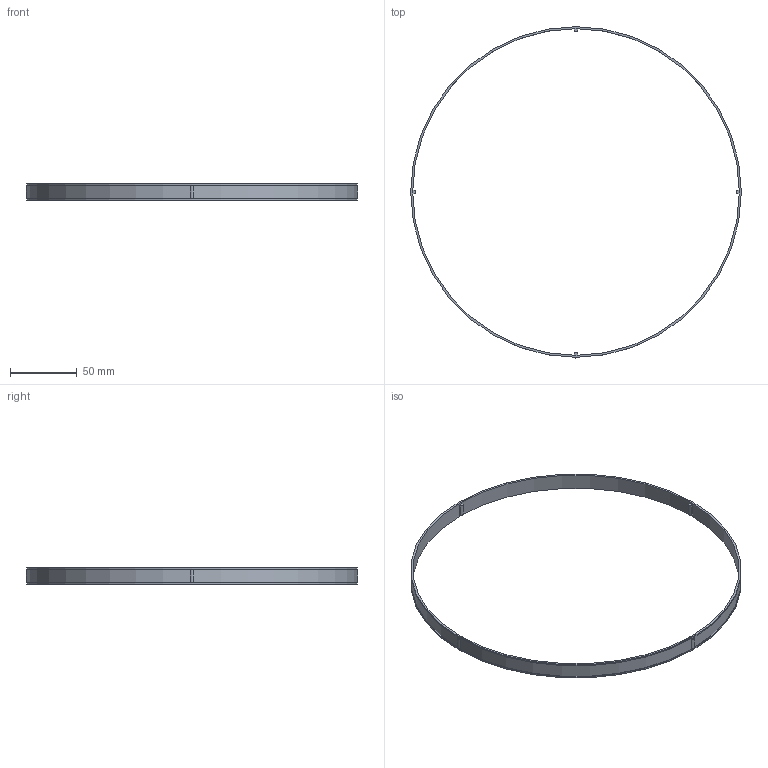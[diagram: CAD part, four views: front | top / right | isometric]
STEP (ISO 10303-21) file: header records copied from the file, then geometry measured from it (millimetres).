
FILE_DESCRIPTION(/* description */ (''),/* implementation_level */ '2;1');
FILE_NAME(/* name */ '300524 FE 648 Z.stp',/* time_stamp */ '2016-11-03T10:45:45+01:00',/* author */ (''),/* organization */ (''),/* preprocessor_version */ 'ST-DEVELOPER v15',/* originating_system */ 'SIEMENS PLM Software NX 8.5',/* authorisation */ '');
FILE_SCHEMA (('CONFIG_CONTROL_DESIGN'));
Length unit declared in the file: millimetre
Products named in the file (1): ATE0000080_01
Bounding box: 248 x 248 x 12 mm (x, y, z)
Volume: 10286.3 mm3; surface area: 21777.6 mm2
Topology: 1 solids, 1 shells, 48 faces, 114 edges, 76 vertices
Faces by surface type: plane 36, cylinder 12
Full cylindrical faces by diameter (mm): 244 x1, 246 x1, 247 x2
Entity records: 1420 total; most frequent: DIRECTION 242, CARTESIAN_POINT 225, ORIENTED_EDGE 208, EDGE_CURVE 104, AXIS2_PLACEMENT_3D 89, VERTEX_POINT 72, LINE 64, VECTOR 64
